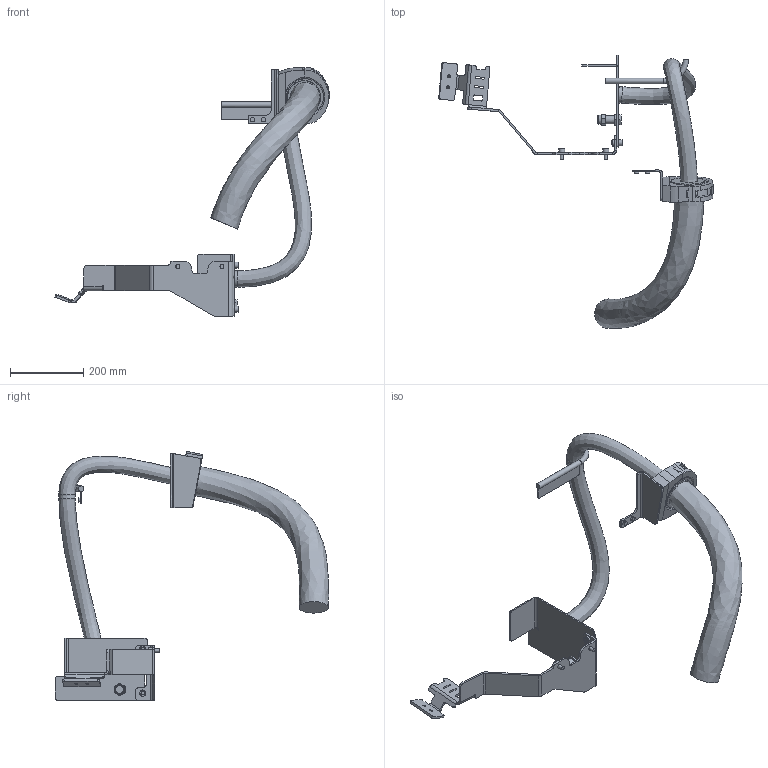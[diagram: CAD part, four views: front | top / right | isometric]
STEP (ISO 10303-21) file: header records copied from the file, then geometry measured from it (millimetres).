
FILE_DESCRIPTION (( 'STEP AP203' ), '1' );
FILE_NAME ('IRB6730S-MH_ALL-OC_00_LINK03a_CABLE.step', '2025-12-19T13:20:14', ( '' ), ( '' ), 'SwSTEP 2.0', 'SolidWorks 2024', '' );
FILE_SCHEMA (( 'CONFIG_CONTROL_DESIGN' ));
Length unit declared in the file: millimetre
Products named in the file (1): IRB6730S-MH_ALL-OC_00_LINK03a_CABLE
Bounding box: 747.03 x 743.86 x 677.77 mm (x, y, z)
Volume: 5945793.9 mm3; surface area: 629313 mm2
Topology: 1 solids, 3 shells, 376 faces, 939 edges, 602 vertices
Faces by surface type: plane 236, cylinder 116, bspline 9, cone 8, sphere 5, torus 2
Full cylindrical faces by diameter (mm): 6 x2, 6.8 x2, 9.8 x1, 10 x4, 10.22 x2, 11 x2, 12 x4, 15 x1, 16.27 x4, 17.2 x1, 17.321 x2, 20 x1, 21 x1, 22 x1, 45 x1, 90 x1
Entity records: 14855 total; most frequent: CARTESIAN_POINT 6056, DIRECTION 1813, ORIENTED_EDGE 1744, EDGE_CURVE 872, AXIS2_PLACEMENT_3D 637, VERTEX_POINT 577, VECTOR 539, LINE 539
